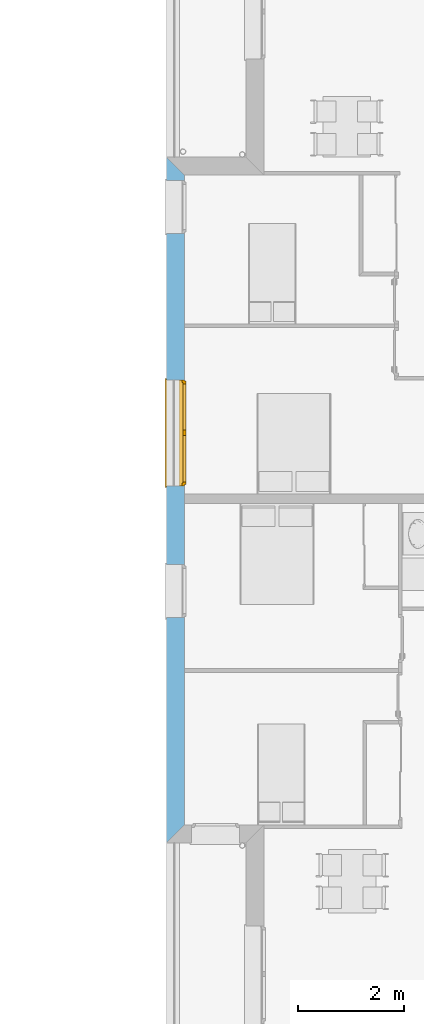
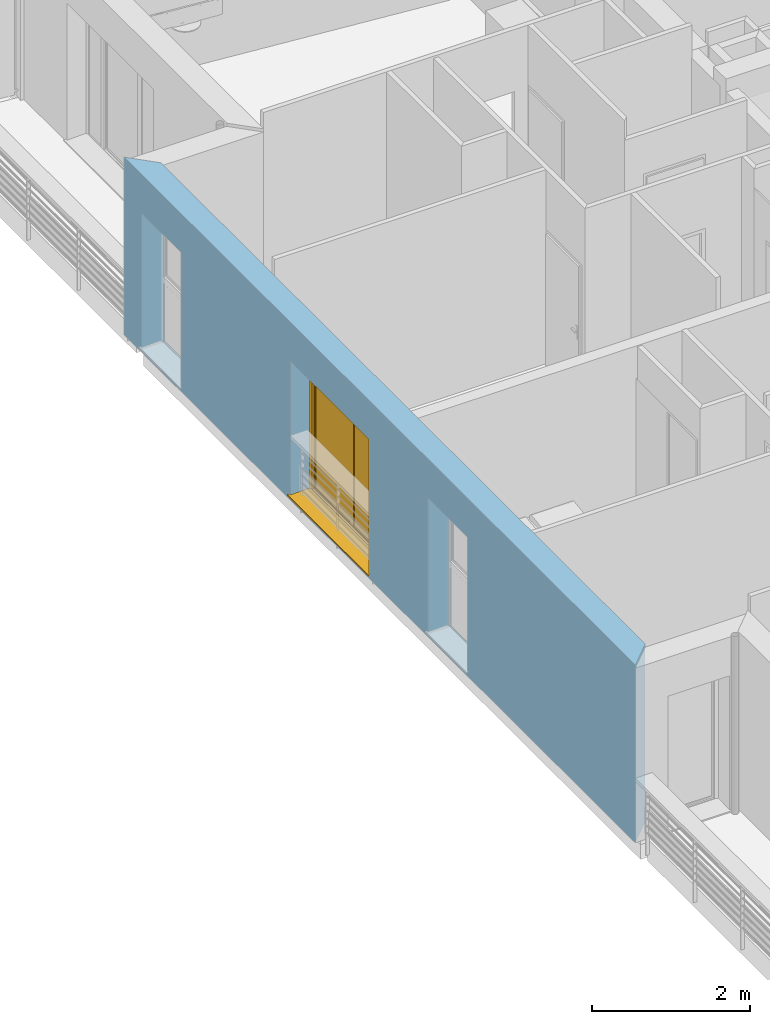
# One storey, part 48 of 171: 1 window, 3 openings, plus 1 element that does not belong to this part.
"""IFC2X3 building model written with IfcOpenShell, lengths in millimetres."""

import ifcopenshell
import ifcopenshell.guid

model = None  # the IFC model being written
_history = None  # IfcOwnerHistory: only IFC2X3 demands one
_inside = {}  # id of a spatial element -> (the spatial element, [elements in it])
_under = {}  # id of a project, library or spatial element -> (it, [spatial elements below it])
_declared = {}  # id of a project -> (the project, [libraries it declares])
_typed = {}  # id of a type object -> (the type object, [elements of that type])
_made_of = {}  # id of a material, layer set ... -> (it, [elements and type objects made of it])


def new_model(schema):
    """Start an empty IFC model of exactly this schema.

    Asked for "IFC4X3", IfcOpenShell would pick the latest addendum, in which some entities
    have other attributes; the version numbers below select the first issue.
    IFC2X3 requires an IfcOwnerHistory on every rooted entity: one is made here for all.
    """
    global model, _history
    if schema == "IFC4X3":
        model = ifcopenshell.file(schema_version=(4, 3, 0, 0))
    else:
        model = ifcopenshell.file(schema=schema)
    _inside.clear()
    _under.clear()
    _declared.clear()
    _typed.clear()
    _made_of.clear()
    _history = None
    if model.schema == "IFC2X3":
        org = make("IfcOrganization", Name="unknown")
        user = make(
            "IfcPersonAndOrganization",
            ThePerson=make("IfcPerson", FamilyName="unknown"),
            TheOrganization=org,
        )
        app = make(
            "IfcApplication",
            ApplicationDeveloper=org,
            Version="unknown",
            ApplicationFullName="unknown",
            ApplicationIdentifier="unknown",
        )
        _history = make(
            "IfcOwnerHistory",
            OwningUser=user,
            OwningApplication=app,
            ChangeAction="ADDED",
            CreationDate=0,
        )
    return model


def make(cls, **values):
    """One entity of the class cls with the attributes given. An attribute that is None is left unset."""
    return model.create_entity(
        cls, **{name: value for name, value in values.items() if value is not None}
    )


def entity(cls, *values):
    """Any entity or typed value of the class cls, its attributes in the order of the schema. None: left unset."""
    e = model.create_entity(cls)
    for i, value in enumerate(values):
        if value is not None:
            e[i] = value
    return e


def rooted(cls, **values):
    """An entity with a GlobalId (a new one), such as an element, a storey or a relation."""
    return make(cls, GlobalId=ifcopenshell.guid.new(), OwnerHistory=_history, **values)


def si_unit(unit_type, name, prefix=None):
    """IfcSIUnit, for example si_unit("LENGTHUNIT", "METRE", prefix="MILLI")."""
    return make("IfcSIUnit", UnitType=unit_type, Prefix=prefix, Name=name)


def converted_unit(unit_type, name, factor, base, dimensions=None, offset=None):
    """IfcConversionBasedUnit, such as the inch: factor (a typed value) times the base unit."""
    return make(
        "IfcConversionBasedUnit"
        if offset is None
        else "IfcConversionBasedUnitWithOffset",
        ConversionOffset=offset,
        Dimensions=None
        if dimensions is None
        else entity("IfcDimensionalExponents", *dimensions),
        UnitType=unit_type,
        Name=name,
        ConversionFactor=make(
            "IfcMeasureWithUnit", ValueComponent=factor, UnitComponent=base
        ),
    )


def derived_unit(unit_type, elements):
    """IfcDerivedUnit: a product of units, each with its exponent."""
    return make(
        "IfcDerivedUnit",
        Elements=[
            make("IfcDerivedUnitElement", Unit=unit, Exponent=power)
            for unit, power in elements
        ],
        UnitType=unit_type,
    )


def money_unit(currency):
    """IfcMonetaryUnit."""
    return make("IfcMonetaryUnit", Currency=currency)


def assignment(units):
    """IfcUnitAssignment: the units of a project."""
    return None if units is None else make("IfcUnitAssignment", Units=units)


def point(xyz):
    """IfcCartesianPoint."""
    return None if xyz is None else make("IfcCartesianPoint", Coordinates=xyz)


def direction(xyz):
    """IfcDirection."""
    return None if xyz is None else make("IfcDirection", DirectionRatios=xyz)


def frame(location, z_axis=None, x_axis=None):
    """IfcAxis2Placement3D, a coordinate frame: its origin and axes. An axis left out is left unset."""
    return make(
        "IfcAxis2Placement3D",
        Location=point(location),
        Axis=direction(z_axis),
        RefDirection=direction(x_axis),
    )


def origin_with_axes():
    """The frame at (0, 0, 0) with the z axis (0, 0, 1) and the x axis (1, 0, 0) written out."""
    return frame((0.0, 0.0, 0.0), z_axis=(0.0, 0.0, 1.0), x_axis=(1.0, 0.0, 0.0))


def place(relative_to, where):
    """IfcLocalPlacement: puts the frame where relative to a parent placement (None: the world)."""
    return make(
        "IfcLocalPlacement", PlacementRelTo=relative_to, RelativePlacement=where
    )


def context(
    kind, dimensions, precision=None, world=None, true_north=None, identifier=None
):
    """IfcGeometricRepresentationContext, for example the 3D "Model" context."""
    return make(
        "IfcGeometricRepresentationContext",
        ContextIdentifier=identifier,
        ContextType=kind,
        CoordinateSpaceDimension=dimensions,
        Precision=precision,
        WorldCoordinateSystem=world,
        TrueNorth=true_north,
    )


def subcontext(parent, identifier, kind, view, scale=None):
    """IfcGeometricRepresentationSubContext, for example "Body" below "Model"."""
    return make(
        "IfcGeometricRepresentationSubContext",
        ContextIdentifier=identifier,
        ContextType=kind,
        ParentContext=parent,
        TargetScale=scale,
        TargetView=view,
    )


def project(units=None, contexts=None):
    """IfcProject with its units and contexts."""
    return rooted(
        "IfcProject",
        Name="project",
        RepresentationContexts=contexts,
        UnitsInContext=assignment(units),
    )


def spatial(cls, under=None, at=None, **own):
    """A site, building, storey or space (cls), placed at a placement, below another one or the project."""
    s = rooted(cls, ObjectPlacement=at, **own)
    if under is not None:
        _under.setdefault(under.id(), (under, []))[1].append(s)
    return s


def polyline(points):
    """IfcPolyline through the points."""
    return make("IfcPolyline", Points=[point(p) for p in points])


def outline(outer, holes=None, kind="AREA"):
    """IfcArbitraryClosedProfileDef: a profile drawn as a closed curve; with holes, ...WithVoids."""
    if holes is None:
        return make("IfcArbitraryClosedProfileDef", ProfileType=kind, OuterCurve=outer)
    return make(
        "IfcArbitraryProfileDefWithVoids",
        ProfileType=kind,
        OuterCurve=outer,
        InnerCurves=holes,
    )


def extrude(swept, where, along, depth):
    """IfcExtrudedAreaSolid: the profile swept, set in the frame where, extruded along a direction by depth."""
    return make(
        "IfcExtrudedAreaSolid",
        SweptArea=swept,
        Position=where,
        ExtrudedDirection=direction(along),
        Depth=depth,
    )


def faces_of(points, faces, orient=None, outer=None):
    """IfcFace entities. A face is a list of loops; a loop is a list of indices into points, from 0.

    orient and outer hold one flag for each loop. By default every Orientation is true, the
    first loop of a face is its IfcFaceOuterBound and the others are IfcFaceBound.
    """
    made = []
    for i, loops in enumerate(faces):
        bounds = []
        for j, loop in enumerate(loops):
            is_outer = j == 0 if outer is None else outer[i][j]
            bounds.append(
                make(
                    "IfcFaceOuterBound" if is_outer else "IfcFaceBound",
                    Bound=make("IfcPolyLoop", Polygon=[points[k] for k in loop]),
                    Orientation=True if orient is None else orient[i][j],
                )
            )
        made.append(make("IfcFace", Bounds=bounds))
    return made


def open_shell(faces, orient=None, outer=None):
    """The faces of one IfcOpenShell. surface_model builds it on its shared points."""
    return ("IfcOpenShell", faces, orient, outer)


def faceted_brep(points, faces, orient=None, outer=None, voids=None):
    """IfcFacetedBrep: a solid bounded by flat faces; with voids (closed shells), ...WithVoids."""
    shared = [point(p) for p in points]
    hull = make("IfcClosedShell", CfsFaces=faces_of(shared, faces, orient, outer))
    if voids is None:
        return make("IfcFacetedBrep", Outer=hull)
    return make(
        "IfcFacetedBrepWithVoids",
        Outer=hull,
        Voids=[
            make(cls, CfsFaces=faces_of(shared, fs, o, b)) for cls, fs, o, b in voids
        ],
    )


def surface_model(cls, points, shells):
    """IfcFaceBasedSurfaceModel or IfcShellBasedSurfaceModel (cls): surfaces that need not close."""
    shared = [point(p) for p in points]
    made = [make(c, CfsFaces=faces_of(shared, fs, o, b)) for c, fs, o, b in shells]
    if cls == "IfcFaceBasedSurfaceModel":
        return make(cls, FbsmFaces=made)
    return make(cls, SbsmBoundary=made)


def shape(context_of_items, identifier, shape_type, items):
    """IfcShapeRepresentation: the items that make up one representation, for example the "Body"."""
    return make(
        "IfcShapeRepresentation",
        ContextOfItems=context_of_items,
        RepresentationIdentifier=identifier,
        RepresentationType=shape_type,
        Items=items,
    )


def source(mapping_origin, context_of_items, identifier, shape_type, items):
    """IfcRepresentationMap: a shape defined once, which mapped items show again and again."""
    return make(
        "IfcRepresentationMap",
        MappingOrigin=mapping_origin,
        MappedRepresentation=shape(context_of_items, identifier, shape_type, items),
    )


def transform(
    local_origin,
    x_axis=None,
    y_axis=None,
    z_axis=None,
    scale=None,
    scale2=None,
    scale3=None,
    uniform=True,
):
    """IfcCartesianTransformationOperator3D, or its non-uniform kind. x_axis, y_axis, z_axis: its Axis1, 2, 3."""
    if uniform:
        return make(
            "IfcCartesianTransformationOperator3D",
            Axis1=direction(x_axis),
            Axis2=direction(y_axis),
            LocalOrigin=point(local_origin),
            Scale=scale,
            Axis3=direction(z_axis),
        )
    return make(
        "IfcCartesianTransformationOperator3DnonUniform",
        Axis1=direction(x_axis),
        Axis2=direction(y_axis),
        LocalOrigin=point(local_origin),
        Scale=scale,
        Axis3=direction(z_axis),
        Scale2=scale2,
        Scale3=scale3,
    )


def mapped(mapping_source, mapping_target):
    """IfcMappedItem: shows the shape of a source again, moved by a transform."""
    return make(
        "IfcMappedItem", MappingSource=mapping_source, MappingTarget=mapping_target
    )


def material(Name=None, Category=None):
    """IfcMaterial."""
    return make("IfcMaterial", Name=Name, Category=Category)


def layer(
    of_material, thickness, ventilated=None, Name=None, Category=None, Priority=None
):
    """IfcMaterialLayer: one layer of a wall or slab, of a material (None: an air gap)."""
    return make(
        "IfcMaterialLayer",
        Material=of_material,
        LayerThickness=thickness,
        IsVentilated=ventilated,
        Name=Name,
        Category=Category,
        Priority=Priority,
    )


def layer_set(layers, Name=None):
    """IfcMaterialLayerSet."""
    return make("IfcMaterialLayerSet", MaterialLayers=layers, LayerSetName=Name)


def layer_usage(for_layer_set, set_direction, sense, offset, extent=None):
    """IfcMaterialLayerSetUsage: how a layer set lies in its element."""
    return make(
        "IfcMaterialLayerSetUsage",
        ForLayerSet=for_layer_set,
        LayerSetDirection=set_direction,
        DirectionSense=sense,
        OffsetFromReferenceLine=offset,
        ReferenceExtent=extent,
    )


def made_of(thing, what):
    """Note that an element or type object is made of a material, layer set ...; save() writes the relation."""
    if what is not None:
        _made_of.setdefault(what.id(), (what, []))[1].append(thing)
    return thing


def type_object(cls, material=None, **own):
    """A type object (cls), such as IfcWallType, which elements share."""
    return made_of(rooted(cls, **own), material)


def element(
    cls,
    number,
    at=None,
    inside=None,
    cuts=None,
    type_object=None,
    material=None,
    context=None,
    identifier="Body",
    shape_type=None,
    held_by="IfcProductDefinitionShape",
    body=None,
    shapes=None,
    **own,
):
    """One element of the class cls, such as IfcWall. Its Tag is "e" and its number.

    at: its placement. inside: the storey or other place that contains it. cuts: it is an
    opening in that element (IfcRelVoidsElement). A single representation is given by context,
    identifier, shape_type and body (its items); several are given by shapes. held_by: the class
    of the entity that holds the representations. save() writes the other relations.
    """
    e = rooted(cls, Tag="e%d" % number, ObjectPlacement=at, **own)
    if body is not None:
        shapes = [shape(context, identifier, shape_type, body)]
    if shapes is not None:
        e.Representation = make(held_by, Representations=shapes)
    if inside is not None:
        _inside.setdefault(inside.id(), (inside, []))[1].append(e)
    if cuts is not None:
        rooted(
            "IfcRelVoidsElement", RelatingBuildingElement=cuts, RelatedOpeningElement=e
        )
    if type_object is not None:
        _typed.setdefault(type_object.id(), (type_object, []))[1].append(e)
    return made_of(e, material)


def fill(opening, filler):
    """IfcRelFillsElement: the door or window that sits in an opening."""
    return rooted(
        "IfcRelFillsElement",
        RelatingOpeningElement=opening,
        RelatedBuildingElement=filler,
    )


def aggregate(whole, parts):
    """IfcRelAggregates: a whole, such as a stair, and the parts it consists of."""
    return rooted("IfcRelAggregates", RelatingObject=whole, RelatedObjects=parts)


def save(model, path):
    """Write the relations noted so far, then the file.

    IfcRelAggregates (storeys below a building ...), IfcRelContainedInSpatialStructure (elements
    in a storey), IfcRelDefinesByType, IfcRelAssociatesMaterial and IfcRelDeclares: one each for
    every whole, place, type object, material and project.
    """
    for whole, parts in _under.values():
        aggregate(whole, parts)
    for where, things in _inside.values():
        rooted(
            "IfcRelContainedInSpatialStructure",
            RelatedElements=things,
            RelatingStructure=where,
        )
    for kind, things in _typed.values():
        rooted("IfcRelDefinesByType", RelatedObjects=things, RelatingType=kind)
    for what, things in _made_of.values():
        rooted("IfcRelAssociatesMaterial", RelatedObjects=things, RelatingMaterial=what)
    for by, libraries in _declared.values():
        rooted("IfcRelDeclares", RelatingContext=by, RelatedDefinitions=libraries)
    model.write(path)


model = new_model("IFC2X3")

# Units and contexts
model_context = context("Model", 3, precision=0.01, world=origin_with_axes(), true_north=direction((0.0, 1.0)))
body_context = subcontext(model_context, "Body", "Model", "MODEL_VIEW")
ifc_project = project(units=[si_unit("LENGTHUNIT", "METRE", prefix="MILLI"), si_unit("AREAUNIT", "SQUARE_METRE"), si_unit("VOLUMEUNIT", "CUBIC_METRE"), converted_unit("PLANEANGLEUNIT", "DEGREE", entity("IfcPlaneAngleMeasure", 0.0174532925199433), si_unit("PLANEANGLEUNIT", "RADIAN"), dimensions=[0, 0, 0, 0, 0, 0, 0]), money_unit("USD"), converted_unit("TIMEUNIT", "Year", entity("IfcTimeMeasure", 31557600.0), si_unit("TIMEUNIT", "SECOND"), dimensions=[0, 0, 1, 0, 0, 0, 0]), si_unit("MASSUNIT", "GRAM", prefix="KILO"), si_unit("THERMODYNAMICTEMPERATUREUNIT", "DEGREE_CELSIUS"), si_unit("LUMINOUSINTENSITYUNIT", "LUMEN"), si_unit("ENERGYUNIT", "JOULE", prefix="MEGA"), derived_unit("THERMALCONDUCTANCEUNIT", [(si_unit("POWERUNIT", "WATT"), 1), (si_unit("LENGTHUNIT", "METRE"), -1), (si_unit("THERMODYNAMICTEMPERATUREUNIT", "KELVIN"), -1)]), derived_unit("SPECIFICHEATCAPACITYUNIT", [(si_unit("ENERGYUNIT", "JOULE"), 1), (si_unit("MASSUNIT", "GRAM", prefix="KILO"), -1), (si_unit("THERMODYNAMICTEMPERATUREUNIT", "KELVIN"), -1)]), derived_unit("MASSDENSITYUNIT", [(si_unit("MASSUNIT", "GRAM", prefix="KILO"), 1), (si_unit("VOLUMEUNIT", "CUBIC_METRE"), -1)])], contexts=[model_context])

# Site, building, storey
site_placement = place(None, origin_with_axes())
site = spatial("IfcSite", under=ifc_project, at=site_placement, Name="Site", CompositionType="ELEMENT")
building_placement = place(site_placement, origin_with_axes())
building = spatial("IfcBuilding", under=site, at=building_placement, Name="Bâtiment", CompositionType="ELEMENT")
storey_placement = place(building_placement, frame((0.0, 0.0, 3000.0), z_axis=(0.0, 0.0, 1.0), x_axis=(1.0, 0.0, 0.0)))
storey = spatial("IfcBuildingStorey", under=building, at=storey_placement, Name="rdc", CompositionType="ELEMENT", Elevation=3000.0)

# Wall, openings, window
ifc_material_1 = material(Name="Parpaing 312445824")
ifc_layer_1 = layer(ifc_material_1, 180.0, ventilated="UNKNOWN")
ifc_material_2 = material(Name="Isolant styromousse 301821074")
ifc_layer_2 = layer(ifc_material_2, 160.0, ventilated="UNKNOWN")
ifc_layer_set = layer_set([ifc_layer_1, ifc_layer_2], Name="isol int 18+16 0018356637")
ifc_layer_usage = layer_usage(ifc_layer_set, "AXIS2", "POSITIVE", 0.0)
wall_type = type_object("IfcWallType", Name="isol int 18+16 0018356637 340", PredefinedType="NOTDEFINED")
wall_placement = place(storey_placement, frame((2216634.236006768, -626071.2141322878, 0.0), z_axis=(0.0, 0.0, 1.0), x_axis=(5.891582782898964e-06, -0.9999999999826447, 0.0)))
wall = element("IfcWallStandardCase", 1, at=wall_placement, inside=storey, type_object=wall_type, material=ifc_layer_usage, Name="Mur-143", context=body_context, shape_type="SweptSolid", body=[
    extrude(outline(polyline([(0.0, 0.0), (12945.5935671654, 0.0), (12605.59557029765, 339.9999999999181), (340.0020031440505, 339.9999999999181), (0.0, 0.0)])), origin_with_axes(), (0.0, 0.0, 1.0), 2750.0),
])
opening_1_placement = place(wall_placement, frame((942.2718853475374, 0.0, 49.99999999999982), z_axis=(0.0, 0.0, 1.0), x_axis=(1.0, 0.0, 0.0)))
element("IfcOpeningElement", 2, at=opening_1_placement, cuts=wall, Name="Fen-133", context=body_context, shape_type="Brep", body=[
    faceted_brep([(-500.0, 289.9999999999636, 2100.0), (-499.9999999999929, 341.0762700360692, 2100.0), (-500.0, 341.0762700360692, 0.0), (-500.0000000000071, 289.9999999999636, 0.0), (-499.9999999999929, 280.0000000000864, 2100.0), (-499.9999999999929, 280.0000000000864, 2350.0), (-499.9999999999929, 529.9999999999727, 2350.0), (-499.9999999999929, 529.9999999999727, 2100.0), (500.0, 341.0762700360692, 2100.0), (500.0, 341.0762700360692, 0.0), (500.0, 289.9999999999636, 0.0), (499.9999999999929, -1.076270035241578, 0.0), (-500.0, -1.076270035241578, 0.0), (-500.0, -1.076270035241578, 2100.0), (500.0, 280.0000000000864, 2100.0), (500.0, 280.0000000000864, 2350.0), (500.0, 529.9999999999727, 2350.0), (500.0, 529.9999999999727, 2100.0), (500.0, 289.9999999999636, 2100.0), (499.9999999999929, -1.076270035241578, 2100.0)], [[[0, 1, 2, 3]], [[1, 0, 4, 5, 6, 7]], [[1, 8, 9, 2]], [[10, 11, 12, 3, 2, 9]], [[4, 0, 3, 12, 13]], [[4, 14, 15, 5]], [[6, 5, 15, 16]], [[7, 6, 16, 17]], [[8, 1, 7, 17]], [[8, 18, 10, 9]], [[18, 14, 19, 11, 10]], [[13, 12, 11, 19]], [[14, 4, 13, 19]], [[18, 8, 17, 16, 15, 14]]]),
])
opening_2_placement = place(wall_placement, frame((8194.486959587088, 0.0, 49.99999999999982), z_axis=(0.0, 0.0, 1.0), x_axis=(1.0, 0.0, 0.0)))
element("IfcOpeningElement", 3, at=opening_2_placement, cuts=wall, Name="Fen-133", context=body_context, shape_type="Brep", body=[
    faceted_brep([(-500.0000000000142, 290.0000000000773, 2100.0), (-500.0, 341.0762700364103, 2100.0), (-500.0, 341.0762700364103, 0.0), (-500.0, 290.0000000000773, 0.0), (-500.0000000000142, 280.0000000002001, 2100.0), (-500.0000000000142, 280.0000000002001, 2350.0), (-500.0, 530.0000000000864, 2350.0), (-500.0, 530.0000000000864, 2100.0), (500.0, 341.0762700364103, 2100.0), (499.9999999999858, 341.0762700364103, 0.0), (500.0, 289.9999999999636, 0.0), (500.0, -1.076270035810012, 0.0), (-500.0, -1.076270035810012, 0.0), (-500.0, -1.076270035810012, 2100.0), (500.0, 280.0000000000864, 2100.0), (500.0, 280.0000000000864, 2350.0), (500.0, 530.0000000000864, 2350.0), (500.0, 530.0000000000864, 2100.0), (500.0, 289.9999999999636, 2100.0), (500.0, -1.076270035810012, 2100.0)], [[[0, 1, 2, 3]], [[1, 0, 4, 5, 6, 7]], [[1, 8, 9, 2]], [[10, 11, 12, 3, 2, 9]], [[4, 0, 3, 12, 13]], [[4, 14, 15, 5]], [[6, 5, 15, 16]], [[7, 6, 16, 17]], [[8, 1, 7, 17]], [[8, 18, 10, 9]], [[18, 14, 19, 11, 10]], [[13, 12, 11, 19]], [[14, 4, 13, 19]], [[18, 8, 17, 16, 15, 14]]]),
])
opening_3_placement = place(wall_placement, frame((5205.708992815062, 0.0, 49.99999999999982), z_axis=(0.0, 0.0, 1.0), x_axis=(1.0, 0.0, 0.0)))
opening_3 = element("IfcOpeningElement", 4, at=opening_3_placement, cuts=wall, Name="Fen-207", context=body_context, shape_type="Brep", body=[
    faceted_brep([(-999.999999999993, 341.0762700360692, 2100.0), (999.999999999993, 341.0762700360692, 2100.0), (999.999999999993, 341.0762700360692, 0.0), (-999.999999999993, 341.0762700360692, 0.0), (-1000.0, 530.0000000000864, 2100.0), (999.999999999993, 530.0000000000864, 2100.0), (1000.000000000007, 289.9999999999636, 2100.0), (1000.000000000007, 289.9999999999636, 0.0), (999.999999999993, -1.076270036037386, 0.0), (-999.999999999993, -1.076270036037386, 0.0), (-999.999999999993, 290.0000000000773, 0.0), (-999.999999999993, 290.0000000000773, 2100.0), (-999.9999999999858, 280.0000000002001, 2100.0), (-999.9999999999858, 280.0000000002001, 2350.0), (-1000.0, 530.0000000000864, 2350.0), (999.999999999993, 530.0000000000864, 2350.0), (1000.000000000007, 280.0000000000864, 2350.0), (1000.000000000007, 280.0000000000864, 2100.0), (999.999999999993, -1.076270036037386, 2100.0), (-999.999999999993, -1.076270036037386, 2100.0)], [[[0, 1, 2, 3]], [[1, 0, 4, 5]], [[1, 6, 7, 2]], [[7, 8, 9, 10, 3, 2]], [[11, 0, 3, 10]], [[0, 11, 12, 13, 14, 4]], [[4, 14, 15, 5]], [[6, 1, 5, 15, 16, 17]], [[6, 17, 18, 8, 7]], [[19, 9, 8, 18]], [[12, 11, 10, 9, 19]], [[12, 17, 16, 13]], [[14, 13, 16, 15]], [[17, 12, 19, 18]]]),
])
window_style = type_object("IfcWindowStyle", Name="Fenêtre châssis double variable 27", ConstructionType="NOTDEFINED", OperationType="DOUBLE_PANEL_VERTICAL", ParameterTakesPrecedence=False, Sizeable=False)
shared_shape = source(origin_with_axes(), body_context, "Body", "SurfaceModel", [
    surface_model("IfcShellBasedSurfaceModel", [(-1000.0, -51.00000000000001, 40.00000000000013), (1000.0, -51.00000000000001, 40.0), (1000.0, -51.00000000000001, 50.0), (-1000.0, -51.00000000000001, 50.00000000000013), (-1030.0, -369.9999999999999, 28.96551724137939), (1030.0, -369.9999999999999, 28.96551724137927), (1030.0, -339.9999999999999, 30.00324289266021), (1000.0, -339.9999999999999, 30.00324289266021), (-1000.0, -339.9999999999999, 30.00324289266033), (-1030.0, -339.9999999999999, 30.00324289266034), (-1030.0, -369.9999999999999, 8.965517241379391), (1030.0, -369.9999999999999, 8.965517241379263), (-1030.0, -359.9999999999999, 18.96551724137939), (1030.0, -359.9999999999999, 18.96551724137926)], [open_shell([[[0, 1, 2, 3]], [[4, 5, 6, 7, 1, 0, 8, 9]], [[10, 11, 5, 4]], [[12, 13, 11, 10]]])]),
    faceted_brep([(1000.0, -60.00000000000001, 2350.0), (1000.0, 190.0, 2350.0), (997.0, 190.0, 2350.0), (997.0, -60.00000000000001, 2350.0), (1000.0, -60.00000000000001, 2100.0), (1000.0, 190.0, 2100.0), (997.0, 190.0, 2100.0), (997.0, -60.00000000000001, 2100.0)], [[[0, 1, 2, 3]], [[0, 4, 5, 1]], [[1, 5, 6, 2]], [[3, 2, 6, 7]], [[4, 0, 3, 7]], [[5, 4, 7, 6]]]),
    faceted_brep([(-997.0000000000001, -59.99999999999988, 2350.0), (-997.0000000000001, 190.0000000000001, 2350.0), (-1000.0, 190.0000000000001, 2350.0), (-1000.0, -59.99999999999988, 2350.0), (-997.0000000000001, -59.99999999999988, 2100.0), (-997.0000000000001, 190.0000000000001, 2100.0), (-1000.0, 190.0000000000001, 2100.0), (-1000.0, -59.99999999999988, 2100.0)], [[[0, 1, 2, 3]], [[0, 4, 5, 1]], [[1, 5, 6, 2]], [[3, 2, 6, 7]], [[4, 0, 3, 7]], [[5, 4, 7, 6]]]),
    faceted_brep([(997.0, -60.0, 2100.0), (997.0, -60.0, 2350.0), (-997.0, -59.99999999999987, 2350.0), (-997.0, -59.99999999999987, 2100.0), (997.0, -56.99999999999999, 2100.0), (997.0, -56.99999999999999, 2347.0), (997.0, 187.0, 2347.0), (997.0, 187.0, 2103.0), (997.0, -37.99999999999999, 2103.0), (997.0, -37.99999999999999, 2100.0), (997.0, 190.0, 2100.0), (997.0, 190.0, 2350.0), (-997.0, 190.0000000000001, 2350.0), (-997.0, 190.0000000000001, 2100.0), (-997.0, -37.99999999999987, 2100.0), (-997.0, -37.99999999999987, 2103.0), (-997.0, 187.0000000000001, 2103.0), (-997.0, 187.0000000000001, 2347.0), (-997.0, -56.99999999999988, 2347.0), (-997.0, -56.99999999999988, 2100.0)], [[[0, 1, 2, 3]], [[0, 4, 5, 6, 7, 8, 9, 10, 11, 1]], [[1, 11, 12, 2]], [[3, 2, 12, 13, 14, 15, 16, 17, 18, 19]], [[4, 0, 3, 19]], [[5, 4, 19, 18]], [[6, 5, 18, 17]], [[7, 6, 17, 16]], [[8, 7, 16, 15]], [[9, 8, 15, 14]], [[10, 9, 14, 13]], [[11, 10, 13, 12]]]),
    faceted_brep([(994.0, -40.37442957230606, 2206.419644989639), (994.0, -35.54711042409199, 2188.403844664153), (994.0, -27.66471820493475, 2171.5), (994.0, -16.9667554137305, 2156.22172576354), (994.0, -3.778274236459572, 2143.03324458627), (994.0, 11.50000000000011, 2132.335281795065), (994.0, 28.40384466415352, 2124.452889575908), (994.0, 46.4196449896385, 2119.625570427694), (994.0, 65.00000000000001, 2118.0), (994.0, 83.58035501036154, 2119.625570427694), (994.0, 101.5961553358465, 2124.452889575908), (994.0, 118.4999999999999, 2132.335281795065), (994.0, 133.7782742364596, 2143.03324458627), (994.0, 146.9667554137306, 2156.22172576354), (994.0, 157.6647182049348, 2171.5), (994.0, 165.5471104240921, 2188.403844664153), (994.0, 170.3744295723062, 2206.419644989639), (994.0, 171.9999999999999, 2225.0), (994.0, 170.3744295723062, 2243.580355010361), (994.0, 165.5471104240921, 2261.596155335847), (994.0, 157.6647182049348, 2278.5), (994.0, 146.9667554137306, 2293.77827423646), (994.0, 133.7782742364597, 2306.966755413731), (994.0, 118.5, 2317.664718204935), (994.0, 101.5961553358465, 2325.547110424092), (994.0, 83.58035501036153, 2330.374429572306), (994.0, 64.99999999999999, 2332.0), (994.0, 46.41964498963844, 2330.374429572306), (994.0, 28.40384466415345, 2325.547110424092), (994.0, 11.5, 2317.664718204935), (994.0, -3.778274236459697, 2306.966755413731), (994.0, -16.96675541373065, 2293.77827423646), (994.0, -27.66471820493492, 2278.5), (994.0, -35.54711042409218, 2261.596155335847), (994.0, -40.37442957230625, 2243.580355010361), (994.0, -41.99999999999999, 2225.0), (-994.0, -40.37442957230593, 2206.419644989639), (-994.0, -35.54711042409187, 2188.403844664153), (-994.0, -27.66471820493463, 2171.5), (-994.0, -16.96675541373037, 2156.22172576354), (-994.0, -3.778274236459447, 2143.03324458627), (-994.0, 11.50000000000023, 2132.335281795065), (-994.0, 28.40384466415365, 2124.452889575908), (-994.0, 46.41964498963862, 2119.625570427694), (-994.0, 65.00000000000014, 2118.0), (-994.0, 83.58035501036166, 2119.625570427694), (-994.0, 101.5961553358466, 2124.452889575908), (-994.0, 118.5000000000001, 2132.335281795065), (-994.0, 133.7782742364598, 2143.03324458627), (-994.0, 146.9667554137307, 2156.22172576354), (-994.0, 157.6647182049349, 2171.5), (-994.0, 165.5471104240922, 2188.403844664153), (-994.0, 170.3744295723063, 2206.419644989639), (-994.0, 172.0, 2225.0), (-994.0, 170.3744295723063, 2243.580355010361), (-994.0, 165.5471104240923, 2261.596155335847), (-994.0, 157.664718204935, 2278.5), (-994.0, 146.9667554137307, 2293.77827423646), (-994.0, 133.7782742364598, 2306.966755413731), (-994.0, 118.5000000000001, 2317.664718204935), (-994.0, 101.5961553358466, 2325.547110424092), (-994.0, 83.58035501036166, 2330.374429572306), (-994.0, 65.00000000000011, 2332.0), (-994.0, 46.41964498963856, 2330.374429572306), (-994.0, 28.40384466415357, 2325.547110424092), (-994.0, 11.50000000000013, 2317.664718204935), (-994.0, -3.778274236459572, 2306.966755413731), (-994.0, -16.96675541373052, 2293.77827423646), (-994.0, -27.6647182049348, 2278.5), (-994.0, -35.54711042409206, 2261.596155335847), (-994.0, -40.37442957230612, 2243.580355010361), (-994.0, -41.99999999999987, 2225.0)], [[[0, 1, 2, 3, 4, 5, 6, 7, 8, 9, 10, 11, 12, 13, 14, 15, 16, 17, 18, 19, 20, 21, 22, 23, 24, 25, 26, 27, 28, 29, 30, 31, 32, 33, 34, 35]], [[1, 0, 36, 37]], [[2, 1, 37, 38]], [[3, 2, 38, 39]], [[4, 3, 39, 40]], [[5, 4, 40, 41]], [[6, 5, 41, 42]], [[7, 6, 42, 43]], [[8, 7, 43, 44]], [[9, 8, 44, 45]], [[10, 9, 45, 46]], [[11, 10, 46, 47]], [[12, 11, 47, 48]], [[13, 12, 48, 49]], [[14, 13, 49, 50]], [[15, 14, 50, 51]], [[16, 15, 51, 52]], [[17, 16, 52, 53]], [[18, 17, 53, 54]], [[19, 18, 54, 55]], [[20, 19, 55, 56]], [[21, 20, 56, 57]], [[22, 21, 57, 58]], [[23, 22, 58, 59]], [[24, 23, 59, 60]], [[25, 24, 60, 61]], [[26, 25, 61, 62]], [[27, 26, 62, 63]], [[28, 27, 63, 64]], [[29, 28, 64, 65]], [[30, 29, 65, 66]], [[31, 30, 66, 67]], [[32, 31, 67, 68]], [[33, 32, 68, 69]], [[34, 33, 69, 70]], [[35, 34, 70, 71]], [[0, 35, 71, 36]], [[36, 71, 70, 69, 68, 67, 66, 65, 64, 63, 62, 61, 60, 59, 58, 57, 56, 55, 54, 53, 52, 51, 50, 49, 48, 47, 46, 45, 44, 43, 42, 41, 40, 39, 38, 37]]]),
    faceted_brep([(-1000.0, -34.99999999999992, 30.0), (-1000.0, -59.99999999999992, 30.0), (-1000.0, -59.99999999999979, 2100.0), (-1000.0, -34.99999999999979, 2100.0), (-975.0, -34.99999999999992, 30.0), (-975.0, -37.99999999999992, 30.0), (-997.0, -37.99999999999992, 30.0), (-997.0, -56.99999999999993, 30.0), (-975.0, -56.99999999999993, 30.0), (-975.0, -59.99999999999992, 30.0), (-975.0, -59.99999999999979, 2100.0), (-975.0, -56.99999999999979, 2100.0), (-997.0, -56.99999999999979, 2100.0), (-997.0, -37.99999999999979, 2100.0), (-975.0, -37.99999999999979, 2100.0), (-975.0, -34.99999999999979, 2100.0)], [[[0, 1, 2, 3]], [[0, 4, 5, 6, 7, 8, 9, 1]], [[1, 9, 10, 2]], [[3, 2, 10, 11, 12, 13, 14, 15]], [[4, 0, 3, 15]], [[5, 4, 15, 14]], [[6, 5, 14, 13]], [[7, 6, 13, 12]], [[8, 7, 12, 11]], [[9, 8, 11, 10]]]),
    faceted_brep([(1000.0, -34.99999999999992, 30.0), (1000.0, -34.99999999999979, 2100.0), (1000.0, -59.99999999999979, 2100.0), (1000.0, -59.99999999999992, 30.0), (975.0, -34.99999999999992, 30.0), (975.0, -34.99999999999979, 2100.0), (975.0, -37.99999999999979, 2100.0), (997.0, -37.99999999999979, 2100.0), (997.0, -56.99999999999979, 2100.0), (975.0, -56.99999999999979, 2100.0), (975.0, -59.99999999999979, 2100.0), (975.0, -59.99999999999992, 30.0), (975.0, -56.99999999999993, 30.0), (997.0, -56.99999999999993, 30.0), (997.0, -37.99999999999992, 30.0), (975.0, -37.99999999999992, 30.0)], [[[0, 1, 2, 3]], [[4, 5, 1, 0]], [[1, 5, 6, 7, 8, 9, 10, 2]], [[3, 2, 10, 11]], [[0, 3, 11, 12, 13, 14, 15, 4]], [[15, 6, 5, 4]], [[14, 7, 6, 15]], [[13, 8, 7, 14]], [[12, 9, 8, 13]], [[11, 10, 9, 12]]]),
    faceted_brep([(-997.0, -46.66666666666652, 2225.0), (997.0, -46.66666666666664, 2225.0), (997.0, -46.66666666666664, 2216.666666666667), (-997.0, -46.66666666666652, 2216.666666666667), (-997.0, -51.66666666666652, 2225.0), (997.0, -51.66666666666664, 2225.0), (997.0, -51.66666666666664, 2216.666666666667), (997.0, -49.99999999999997, 2200.0), (997.0, -44.99999999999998, 2200.0), (-997.0, -44.99999999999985, 2200.0), (-997.0, -49.99999999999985, 2200.0), (-997.0, -51.66666666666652, 2216.666666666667)], [[[0, 1, 2, 3]], [[1, 0, 4, 5]], [[1, 5, 6, 7, 8, 2]], [[2, 8, 9, 3]], [[4, 0, 3, 9, 10, 11]], [[6, 5, 4, 11]], [[7, 6, 11, 10]], [[8, 7, 10, 9]]]),
    faceted_brep([(997.0, -44.99999999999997, 2200.0), (997.0, -46.66666666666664, 2183.333333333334), (-997.0, -46.66666666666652, 2183.333333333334), (-997.0, -44.99999999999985, 2200.0), (997.0, -49.99999999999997, 2200.0), (997.0, -51.66666666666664, 2183.333333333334), (997.0, -51.66666666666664, 2166.666666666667), (997.0, -49.99999999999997, 2150.000000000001), (997.0, -44.99999999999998, 2150.000000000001), (997.0, -46.66666666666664, 2166.666666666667), (-997.0, -46.66666666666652, 2166.666666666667), (-997.0, -44.99999999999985, 2150.000000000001), (-997.0, -49.99999999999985, 2150.000000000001), (-997.0, -51.66666666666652, 2166.666666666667), (-997.0, -51.66666666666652, 2183.333333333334), (-997.0, -49.99999999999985, 2200.0)], [[[0, 1, 2, 3]], [[0, 4, 5, 6, 7, 8, 9, 1]], [[1, 9, 10, 2]], [[3, 2, 10, 11, 12, 13, 14, 15]], [[4, 0, 3, 15]], [[5, 4, 15, 14]], [[6, 5, 14, 13]], [[7, 6, 13, 12]], [[8, 7, 12, 11]], [[9, 8, 11, 10]]]),
    faceted_brep([(997.0, -44.99999999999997, 2150.000000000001), (997.0, -46.66666666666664, 2133.333333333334), (-997.0, -46.66666666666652, 2133.333333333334), (-997.0, -44.99999999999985, 2150.000000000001), (997.0, -49.99999999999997, 2150.000000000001), (997.0, -51.66666666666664, 2133.333333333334), (997.0, -51.66666666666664, 2116.666666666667), (997.0, -49.99999999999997, 2100.000000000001), (997.0, -44.99999999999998, 2100.000000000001), (997.0, -46.66666666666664, 2116.666666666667), (-997.0, -46.66666666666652, 2116.666666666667), (-997.0, -44.99999999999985, 2100.000000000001), (-997.0, -49.99999999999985, 2100.000000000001), (-997.0, -51.66666666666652, 2116.666666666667), (-997.0, -51.66666666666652, 2133.333333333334), (-997.0, -49.99999999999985, 2150.000000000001)], [[[0, 1, 2, 3]], [[0, 4, 5, 6, 7, 8, 9, 1]], [[1, 9, 10, 2]], [[3, 2, 10, 11, 12, 13, 14, 15]], [[4, 0, 3, 15]], [[5, 4, 15, 14]], [[6, 5, 14, 13]], [[7, 6, 13, 12]], [[8, 7, 12, 11]], [[9, 8, 11, 10]]]),
    faceted_brep([(975.0, 0.0, 2050.0), (975.0, -25.00000000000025, 2050.0), (950.0, -25.00000000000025, 2050.0), (950.0, -50.00000000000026, 2050.0), (1000.0, -50.00000000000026, 2050.0), (1000.0, 0.0, 2050.0), (975.0, 0.0, 50.00000000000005), (975.0, -25.00000000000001, 50.00000000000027), (950.0, -25.00000000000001, 50.00000000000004), (950.0, -50.00000000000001, 50.00000000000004), (1000.0, -50.00000000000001, 50.00000000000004), (1000.0, 0.0, 50.00000000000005)], [[[0, 1, 2, 3, 4, 5]], [[1, 0, 6, 7]], [[8, 2, 1, 7]], [[2, 8, 9, 3]], [[4, 3, 9, 10]], [[5, 4, 10, 11]], [[6, 0, 5, 11]], [[7, 6, 11, 10, 9, 8]]]),
    faceted_brep([(-950.0, -25.00000000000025, 2050.0), (-975.0, -25.00000000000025, 2050.0), (-975.0, 0.0, 2050.0), (-1000.0, 0.0, 2050.0), (-1000.0, -50.00000000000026, 2050.0), (-950.0, -50.00000000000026, 2050.0), (-950.0, -25.00000000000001, 50.00000000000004), (-975.0, -25.00000000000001, 50.00000000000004), (-975.0, 0.0, 50.00000000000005), (-1000.0, 0.0, 50.00000000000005), (-1000.0, -50.00000000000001, 50.00000000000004), (-950.0, -50.00000000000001, 50.00000000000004)], [[[0, 1, 2, 3, 4, 5]], [[1, 0, 6, 7]], [[8, 2, 1, 7]], [[2, 8, 9, 3]], [[9, 10, 4, 3]], [[10, 11, 5, 4]], [[6, 0, 5, 11]], [[7, 6, 11, 10, 9, 8]]]),
    faceted_brep([(-950.0, -25.00000000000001, 50.00000000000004), (-975.0, -25.00000000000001, 50.00000000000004), (-975.0, 0.0, 50.00000000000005), (-1000.0, 0.0, 50.00000000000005), (-1000.0, -50.00000000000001, 50.00000000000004), (-950.0, -50.00000000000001, 50.00000000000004), (950.0, -25.00000000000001, 50.00000000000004), (975.0, -25.00000000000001, 50.00000000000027), (975.0, -25.0, 24.99999999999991), (-975.0, -25.0, 24.99999999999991), (-975.0, 0.0, 24.99999999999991), (975.0, 0.0, 24.99999999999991), (975.0, 0.0, 50.00000000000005), (1000.0, 0.0, 50.00000000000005), (1000.0, 0.0, 0.0), (-1000.0, 0.0, 0.0), (-1000.0, -50.0, 0.0), (1000.0, -50.00000000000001, 50.00000000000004), (950.0, -50.00000000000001, 50.00000000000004), (1000.0, -50.0, 0.0)], [[[0, 1, 2, 3, 4, 5]], [[1, 0, 6, 7, 8, 9]], [[10, 2, 1, 9]], [[11, 12, 13, 14, 15, 3, 2, 10]], [[15, 16, 4, 3]], [[17, 18, 5, 4, 16, 19]], [[6, 0, 5, 18]], [[7, 6, 18, 17, 13, 12]], [[7, 12, 11, 8]], [[11, 10, 9, 8]], [[13, 17, 19, 14]], [[14, 19, 16, 15]]]),
    faceted_brep([(975.0, 0.0, 2050.0), (975.0, 0.0, 2075.0), (-975.0, 0.0, 2075.0), (-975.0, 0.0, 2050.0), (-1000.0, 0.0, 2050.0), (-1000.0, 0.0, 2100.0), (1000.0, 0.0, 2100.0), (1000.0, 0.0, 2050.0), (975.0, -25.00000000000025, 2050.0), (975.0, -25.00000000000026, 2075.0), (-975.0, -25.00000000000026, 2075.0), (-975.0, -25.00000000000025, 2050.0), (-950.0, -25.00000000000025, 2050.0), (-950.0, -50.00000000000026, 2050.0), (-1000.0, -50.00000000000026, 2050.0), (-1000.0, -50.00000000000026, 2100.0), (1000.0, -50.00000000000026, 2100.0), (1000.0, -50.00000000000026, 2050.0), (950.0, -50.00000000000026, 2050.0), (950.0, -25.00000000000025, 2050.0)], [[[0, 1, 2, 3, 4, 5, 6, 7]], [[1, 0, 8, 9]], [[2, 1, 9, 10]], [[3, 2, 10, 11]], [[11, 12, 13, 14, 4, 3]], [[4, 14, 15, 5]], [[5, 15, 16, 6]], [[6, 16, 17, 7]], [[8, 0, 7, 17, 18, 19]], [[12, 11, 10, 9, 8, 19]], [[12, 19, 18, 13]], [[14, 13, 18, 17, 16, 15]]]),
    faceted_brep([(925.0, -25.00000000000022, 2025.0), (975.0, -25.00000000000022, 2025.0), (975.0, 24.99999999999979, 2025.0), (925.0, 24.99999999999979, 2025.0), (925.0, -24.99999999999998, 75.00000000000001), (975.0, -24.99999999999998, 75.00000000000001), (975.0, 25.00000000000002, 75.00000000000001), (925.0, 25.00000000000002, 75.00000000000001)], [[[0, 1, 2, 3]], [[0, 4, 5, 1]], [[1, 5, 6, 2]], [[3, 2, 6, 7]], [[4, 0, 3, 7]], [[5, 4, 7, 6]]]),
    faceted_brep([(49.99999999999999, -25.00000000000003, 75.00000000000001), (0.0, -25.00000000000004, 75.00000000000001), (0.0, 24.99999999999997, 75.00000000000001), (49.99999999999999, 24.99999999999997, 75.00000000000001), (49.99999999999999, -25.00000000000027, 2025.0), (0.0, -25.00000000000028, 2025.0), (0.0, 24.99999999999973, 2025.0), (49.99999999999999, 24.99999999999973, 2025.0)], [[[0, 1, 2, 3]], [[0, 4, 5, 1]], [[1, 5, 6, 2]], [[3, 2, 6, 7]], [[4, 0, 3, 7]], [[5, 4, 7, 6]]]),
    faceted_brep([(0.0, -25.00000000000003, 25.0), (0.0, -25.00000000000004, 75.00000000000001), (0.0, 24.99999999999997, 75.00000000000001), (0.0, 24.99999999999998, 25.00000000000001), (975.0, -24.99999999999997, 25.0), (975.0, -24.99999999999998, 75.00000000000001), (925.0, -24.99999999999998, 75.00000000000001), (49.99999999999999, -25.00000000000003, 75.00000000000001), (49.99999999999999, 24.99999999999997, 75.00000000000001), (925.0, 25.00000000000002, 75.00000000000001), (975.0, 25.00000000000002, 75.00000000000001), (975.0, 25.00000000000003, 25.00000000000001)], [[[0, 1, 2, 3]], [[0, 4, 5, 6, 7, 1]], [[1, 7, 8, 2]], [[3, 2, 8, 9, 10, 11]], [[4, 0, 3, 11]], [[5, 4, 11, 10]], [[6, 5, 10, 9]], [[7, 6, 9, 8]]]),
    faceted_brep([(975.0, -25.00000000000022, 2075.0), (975.0, -25.00000000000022, 2025.0), (975.0, 24.99999999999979, 2025.0), (975.0, 24.99999999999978, 2075.0), (0.0, -25.00000000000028, 2075.0), (0.0, -25.00000000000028, 2025.0), (49.99999999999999, -25.00000000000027, 2025.0), (925.0, -25.00000000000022, 2025.0), (925.0, 24.99999999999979, 2025.0), (49.99999999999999, 24.99999999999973, 2025.0), (0.0, 24.99999999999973, 2025.0), (0.0, 24.99999999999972, 2075.0)], [[[0, 1, 2, 3]], [[0, 4, 5, 6, 7, 1]], [[1, 7, 8, 2]], [[3, 2, 8, 9, 10, 11]], [[4, 0, 3, 11]], [[5, 4, 11, 10]], [[6, 5, 10, 9]], [[7, 6, 9, 8]]]),
    surface_model("IfcShellBasedSurfaceModel", [(925.0, -10.00000000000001, 75.00000000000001), (925.0, -10.00000000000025, 2025.0), (49.99999999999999, -10.00000000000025, 2025.0), (49.99999999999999, -10.00000000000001, 75.00000000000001)], [open_shell([[[0, 1, 2, 3]]])]),
    surface_model("IfcShellBasedSurfaceModel", [(925.0, 9.999999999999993, 75.00000000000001), (49.99999999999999, 9.999999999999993, 75.00000000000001), (49.99999999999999, 9.999999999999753, 2025.0), (925.0, 9.999999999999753, 2025.0)], [open_shell([[[0, 1, 2, 3]]])]),
    faceted_brep([(-49.99999999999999, -25.00000000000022, 2025.0), (0.0, -25.00000000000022, 2025.0), (0.0, 24.99999999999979, 2025.0), (-49.99999999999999, 24.99999999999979, 2025.0), (-49.99999999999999, -24.99999999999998, 75.00000000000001), (0.0, -24.99999999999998, 75.00000000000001), (0.0, 25.00000000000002, 75.00000000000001), (-49.99999999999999, 25.00000000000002, 75.00000000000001)], [[[0, 1, 2, 3]], [[0, 4, 5, 1]], [[1, 5, 6, 2]], [[3, 2, 6, 7]], [[4, 0, 3, 7]], [[5, 4, 7, 6]]]),
    faceted_brep([(-925.0, -25.00000000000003, 75.00000000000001), (-975.0, -25.00000000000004, 75.00000000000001), (-975.0, 24.99999999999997, 75.00000000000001), (-925.0, 24.99999999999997, 75.00000000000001), (-925.0, -25.00000000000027, 2025.0), (-975.0, -25.00000000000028, 2025.0), (-975.0, 24.99999999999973, 2025.0), (-925.0, 24.99999999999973, 2025.0)], [[[0, 1, 2, 3]], [[0, 4, 5, 1]], [[1, 5, 6, 2]], [[3, 2, 6, 7]], [[4, 0, 3, 7]], [[5, 4, 7, 6]]]),
    faceted_brep([(-975.0, -25.00000000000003, 25.0), (-975.0, -25.00000000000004, 75.00000000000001), (-975.0, 24.99999999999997, 75.00000000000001), (-975.0, 24.99999999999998, 25.00000000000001), (0.0, -24.99999999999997, 25.0), (0.0, -24.99999999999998, 75.00000000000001), (-49.99999999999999, -24.99999999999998, 75.00000000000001), (-925.0, -25.00000000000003, 75.00000000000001), (-925.0, 24.99999999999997, 75.00000000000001), (-49.99999999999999, 25.00000000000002, 75.00000000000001), (0.0, 25.00000000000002, 75.00000000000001), (0.0, 25.00000000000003, 25.00000000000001)], [[[0, 1, 2, 3]], [[0, 4, 5, 6, 7, 1]], [[1, 7, 8, 2]], [[3, 2, 8, 9, 10, 11]], [[4, 0, 3, 11]], [[5, 4, 11, 10]], [[6, 5, 10, 9]], [[7, 6, 9, 8]]]),
    faceted_brep([(0.0, -25.00000000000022, 2075.0), (0.0, -25.00000000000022, 2025.0), (0.0, 24.99999999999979, 2025.0), (0.0, 24.99999999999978, 2075.0), (-975.0, -25.00000000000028, 2075.0), (-975.0, -25.00000000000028, 2025.0), (-925.0, -25.00000000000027, 2025.0), (-49.99999999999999, -25.00000000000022, 2025.0), (-49.99999999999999, 24.99999999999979, 2025.0), (-925.0, 24.99999999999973, 2025.0), (-975.0, 24.99999999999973, 2025.0), (-975.0, 24.99999999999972, 2075.0)], [[[0, 1, 2, 3]], [[0, 4, 5, 6, 7, 1]], [[1, 7, 8, 2]], [[3, 2, 8, 9, 10, 11]], [[4, 0, 3, 11]], [[5, 4, 11, 10]], [[6, 5, 10, 9]], [[7, 6, 9, 8]]]),
    surface_model("IfcShellBasedSurfaceModel", [(-49.99999999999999, -10.00000000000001, 75.00000000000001), (-49.99999999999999, -10.00000000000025, 2025.0), (-925.0, -10.00000000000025, 2025.0), (-925.0, -10.00000000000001, 75.00000000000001)], [open_shell([[[0, 1, 2, 3]]])]),
    surface_model("IfcShellBasedSurfaceModel", [(-49.99999999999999, 9.999999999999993, 75.00000000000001), (-925.0, 9.999999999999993, 75.00000000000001), (-925.0, 9.999999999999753, 2025.0), (-49.99999999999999, 9.999999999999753, 2025.0)], [open_shell([[[0, 1, 2, 3]]])]),
])
window_placement = place(opening_3_placement, frame((-999.9999999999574, 2.273736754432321e-10, 0.0), z_axis=(0.0, 0.0, 1.0), x_axis=(1.0, 0.0, 0.0)))
window = element("IfcWindow", 5, at=window_placement, inside=storey, type_object=window_style, Name="Fen-207", OverallHeight=2100.0, OverallWidth=2000.0, context=body_context, shape_type="MappedRepresentation", body=[
    mapped(shared_shape, transform((999.999999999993, 340.0000000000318, 0.0))),
])
fill(opening_3, window)

save(model, "model.ifc")
